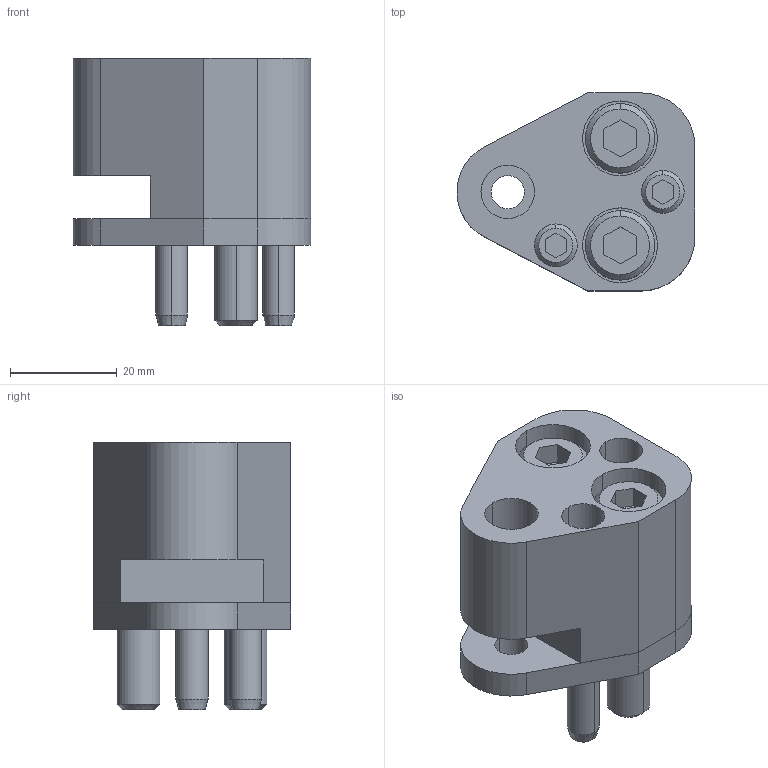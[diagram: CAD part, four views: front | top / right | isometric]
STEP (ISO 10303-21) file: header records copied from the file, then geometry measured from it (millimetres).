
FILE_DESCRIPTION(/* description */ (''),/* implementation_level */ '2;1');
FILE_NAME(/* name */ '3d_ap-fp10_02881_r00.stp',/* time_stamp */ '2011-01-10T14:17:46+09:00',/* author */ ('MISUMI'),/* organization */ (''),/* preprocessor_version */ 'ST-DEVELOPER v11',/* originating_system */ 'UGS - NX 5.0',/* authorisation */ '');
FILE_SCHEMA (('CONFIG_CONTROL_DESIGN'));
Length unit declared in the file: millimetre
Products named in the file (1): 3d_ap-fp10_02881_r00
Bounding box: 44.47 x 37 x 50 mm (x, y, z)
Volume: 39549.1 mm3; surface area: 18641.7 mm2
Topology: 8 solids, 8 shells, 154 faces, 350 edges, 225 vertices
Faces by surface type: plane 68, cylinder 60, cone 26
Entity records: 4496 total; most frequent: DIRECTION 802, CARTESIAN_POINT 783, ORIENTED_EDGE 700, EDGE_CURVE 350, AXIS2_PLACEMENT_3D 302, VERTEX_POINT 225, LINE 198, VECTOR 198
